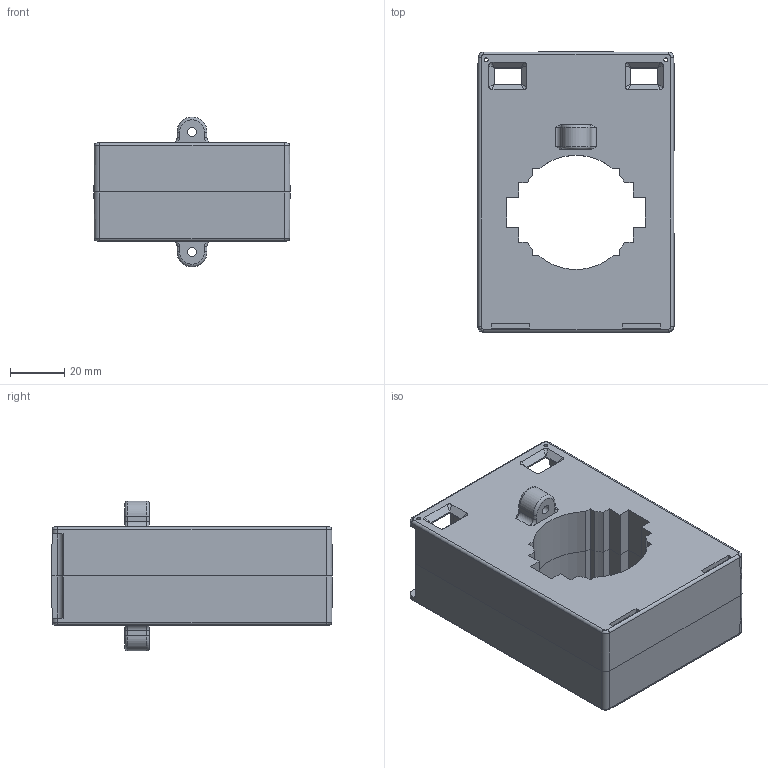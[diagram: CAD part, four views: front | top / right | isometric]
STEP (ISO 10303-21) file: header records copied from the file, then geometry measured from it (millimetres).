
FILE_DESCRIPTION(/* description */ (''),/* implementation_level */ '2;1');
FILE_NAME(/* name */ '图纸B1.stp',/* time_stamp */ '2024-10-05T10:16:41+08:00',/* author */ (''),/* organization */ (''),/* preprocessor_version */ 'ST-DEVELOPER v18.102',/* originating_system */ 'SIEMENS PLM Software NX2206.1700',/* authorisation */ '');
FILE_SCHEMA (('AUTOMOTIVE_DESIGN { 1 0 10303 214 3 1 1 1 }'));
Length unit declared in the file: millimetre
Products named in the file (1): 图纸B1_MW2026C4E4E3uynt
Bounding box: 72 x 103 x 55 mm (x, y, z)
Volume: 63407.6 mm3; surface area: 63354.9 mm2
Topology: 2 solids, 2 shells, 698 faces, 1960 edges, 1276 vertices
Faces by surface type: plane 548, cylinder 106, bspline 28, torus 12, extrusion 4
Full cylindrical faces by diameter (mm): 1.5 x4, 1.7 x4, 3.3 x2, 4.2 x2
Entity records: 23029 total; most frequent: CARTESIAN_POINT 5049, ORIENTED_EDGE 3856, DIRECTION 3428, EDGE_CURVE 1928, VECTOR 1606, LINE 1602, VERTEX_POINT 1272, AXIS2_PLACEMENT_3D 911
